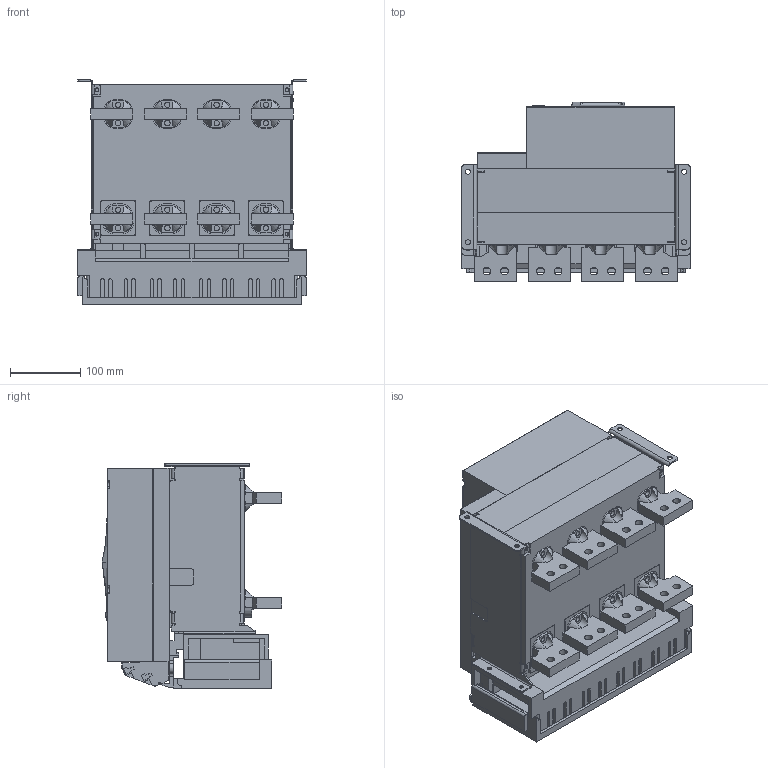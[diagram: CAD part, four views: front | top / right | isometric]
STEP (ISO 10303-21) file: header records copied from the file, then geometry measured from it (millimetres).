
FILE_DESCRIPTION((''),'2;1');
FILE_NAME('NA8G-1600-1250-F-4P-H_ASM','2019-06-03T10:01:05',('lcc'),(''),'CREO PARAMETRIC BY PTC INC, 2018020','CREO PARAMETRIC BY PTC INC, 2018020','');
FILE_SCHEMA(('CONFIG_CONTROL_DESIGN','SHAPE_APPEARANCE_LAYERS_GROUPS'));
Products named in the file (20): 1600-JIZUO-4P; 1600-DIBAN-4P; 8-050-245; 8-050-246; 8-300-162-2; 8-005-238; 8-300-163; 8-015-020; 8ZTD-064-138; 8ZTD-024-689; 8ZTD-860-511; 1600-DUANZI-CTS_ASM; 8-253-348; 8-253-349; 5-235-147; 8-253-309; 8ZTD-580-187-1; 8ZTD-580-188-1; 8-211-087; NA8G-1600-1250-F-4P-H_ASM
Assembly tree (41 placements, depth 3):
  NA8G-1600-1250-F-4P-H_ASM
    1600-JIZUO-4P
    1600-DIBAN-4P
    8-050-245
    8-050-246
    8-300-162-2
    8-005-238
    8-300-163
    8-015-020
    1600-DUANZI-CTS_ASM
      8ZTD-064-138
      8ZTD-024-689  x14
      8ZTD-860-511
    8-253-348
    8-253-349
    5-235-147
    8-253-309
    8ZTD-580-187-1  x4
    8ZTD-580-188-1  x4
    8-211-087  x4
Bounding box: 324 x 255 x 318.5 mm (x, y, z)
Volume: 9038401.9 mm3; surface area: 1662438.6 mm2
Topology: 40 solids, 59 shells, 5324 faces, 14802 edges, 9739 vertices
Faces by surface type: plane 4267, cylinder 986, cone 32, torus 18, bspline 10, sphere 10, extrusion 1
Entity records: 130598 total; most frequent: CARTESIAN_POINT 18775, ORIENTED_EDGE 17220, DIRECTION 16391, PRESENTATION_STYLE_ASSIGNMENT 9189, STYLED_ITEM 9174, CURVE_STYLE 8613, EDGE_CURVE 8613, VECTOR 7015
